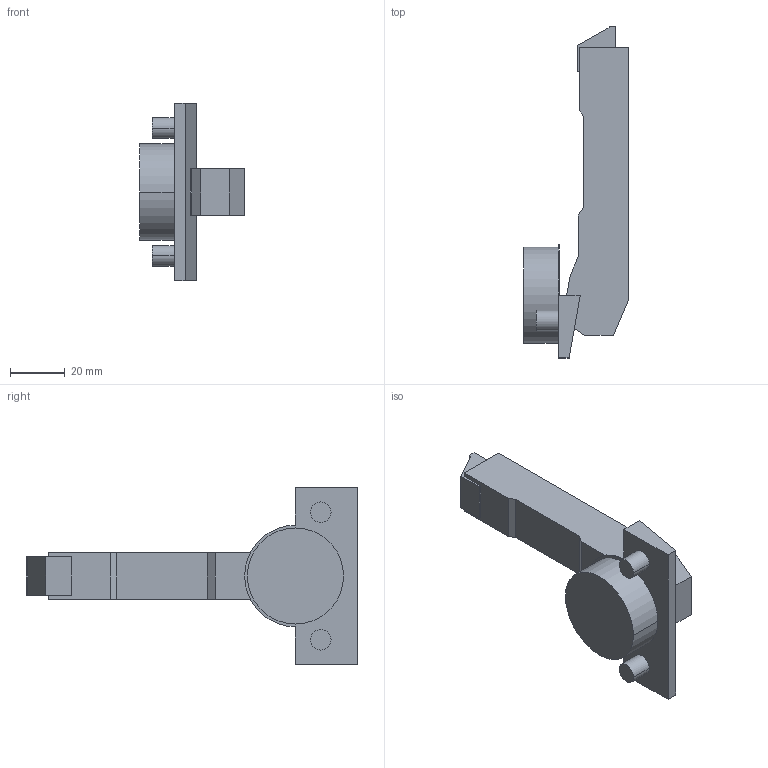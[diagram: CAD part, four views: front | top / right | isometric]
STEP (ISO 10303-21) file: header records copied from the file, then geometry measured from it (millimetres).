
FILE_DESCRIPTION (( 'STEP AP214' ), '1' );
FILE_NAME ('Scharnier TT Impresso 110° +90° MB_BB, einliegend.step', '2010-12-13T10:23:02', ( 'grass' ), ( '' ), 'SwSTEP 2.0', 'SolidWorks 2010', '' );
FILE_SCHEMA (( 'AUTOMOTIVE_DESIGN' ));
Length unit declared in the file: millimetre
Products named in the file (1): Scharnier TT Impresso 110° +90° MB_BB, einliegend
Bounding box: 38.15 x 120.85 x 64.5 mm (x, y, z)
Volume: 53815.9 mm3; surface area: 14656.7 mm2
Topology: 1 solids, 3 shells, 60 faces, 144 edges, 96 vertices
Faces by surface type: plane 42, cylinder 18
Entity records: 1774 total; most frequent: DIRECTION 302, CARTESIAN_POINT 301, ORIENTED_EDGE 288, EDGE_CURVE 144, VECTOR 108, LINE 108, AXIS2_PLACEMENT_3D 97, VERTEX_POINT 96
